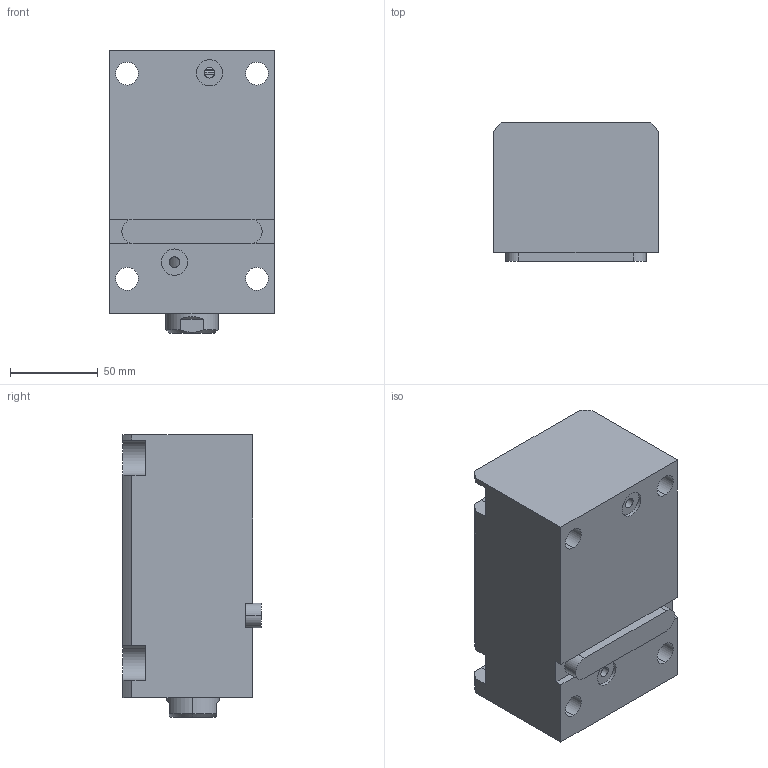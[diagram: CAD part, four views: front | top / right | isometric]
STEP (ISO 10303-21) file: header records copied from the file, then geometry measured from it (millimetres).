
FILE_DESCRIPTION (( 'STEP AP203' ), '1' );
FILE_NAME ('CHTB-LAM50-90N.STEP', '2018-05-23T11:20:26', ( '' ), ( '' ), 'SwSTEP 2.0', 'SolidWorks 2015', '' );
FILE_SCHEMA (( 'CONFIG_CONTROL_DESIGN' ));
Length unit declared in the file: millimetre
Products named in the file (4): CHTM-SDMA50QG; CHTB-LAM50-90N; 掛极LAM50-90N; 活塞杆LAM50-90N
Assembly tree (3 placements, depth 2):
  CHTB-LAM50-90N
    掛极LAM50-90N
    活塞杆LAM50-90N
    CHTM-SDMA50QG
Bounding box: 94 x 79 x 161 mm (x, y, z)
Volume: 874785.8 mm3; surface area: 135497.1 mm2
Topology: 3 solids, 3 shells, 192 faces, 524 edges, 347 vertices
Faces by surface type: cylinder 96, plane 51, torus 16, cone 15, bspline 14
Entity records: 11011 total; most frequent: CARTESIAN_POINT 5956, ORIENTED_EDGE 1036, DIRECTION 908, EDGE_CURVE 518, AXIS2_PLACEMENT_3D 356, VERTEX_POINT 347, EDGE_LOOP 221, VECTOR 196
